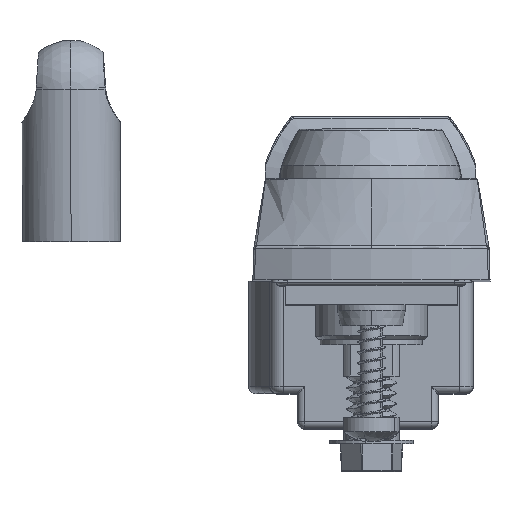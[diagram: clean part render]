
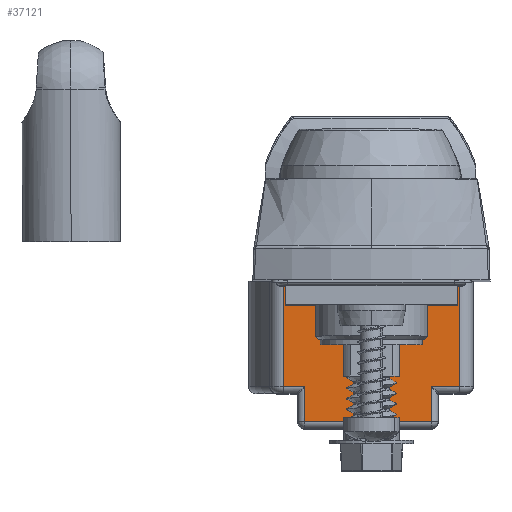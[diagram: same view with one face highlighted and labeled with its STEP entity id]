
A CAD part, top view. The second image highlights one B-rep face of the part: STEP entity #37121.
In plain terms, the highlighted planar face has unit normal (0, 0, 1) as drawn and (-1, 0, 0) by its records, which use the part's own axes.
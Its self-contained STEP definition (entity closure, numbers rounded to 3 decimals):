
#26204 = CARTESIAN_POINT ( 'NONE',  ( -77.047, 24.46, 15. ) ) ;
#26282 = DIRECTION ( 'NONE',  ( 0., 0., -1. ) ) ;
#26283 = VECTOR ( 'NONE', #26282, 1000. ) ;
#26284 = CARTESIAN_POINT ( 'NONE',  ( -77.047, 20.46, 16. ) ) ;
#26287 = LINE ( 'NONE', #26284, #26283 ) ;
#26304 = DIRECTION ( 'NONE',  ( 0., 0., -1. ) ) ;
#26305 = CARTESIAN_POINT ( 'NONE',  ( -77.047, 24.46, 16. ) ) ;
#26306 = LINE ( 'NONE', #26305, #26352 ) ;
#26329 = CARTESIAN_POINT ( 'NONE',  ( -77.047, 20.46, 15. ) ) ;
#26345 = CARTESIAN_POINT ( 'NONE',  ( -77.047, 20.46, 20. ) ) ;
#26352 = VECTOR ( 'NONE', #26304, 1000. ) ;
#26358 = AXIS2_PLACEMENT_3D ( 'NONE', #26386, #26377, #26376 ) ;
#26363 = LINE ( 'NONE', #26417, #26407 ) ;
#26374 = DIRECTION ( 'NONE',  ( 0., 1., 0. ) ) ;
#26376 = DIRECTION ( 'NONE',  ( 0., 0., -1. ) ) ;
#26377 = DIRECTION ( 'NONE',  ( 1., 0., 0. ) ) ;
#26378 = VECTOR ( 'NONE', #26374, 1000. ) ;
#26379 = CARTESIAN_POINT ( 'NONE',  ( -77.047, -0.54, 15. ) ) ;
#26386 = CARTESIAN_POINT ( 'NONE',  ( -77.047, -0.54, 16. ) ) ;
#26387 = LINE ( 'NONE', #26379, #26378 ) ;
#26389 = FACE_OUTER_BOUND ( 'NONE', #37138, .T. ) ;
#26391 = PLANE ( 'NONE',  #26358 ) ;
#26406 = DIRECTION ( 'NONE',  ( 0., 0., 1. ) ) ;
#26407 = VECTOR ( 'NONE', #26406, 1000. ) ;
#26414 = CARTESIAN_POINT ( 'NONE',  ( -77.047, -0.54, 15. ) ) ;
#26415 = CARTESIAN_POINT ( 'NONE',  ( -77.047, 2.46, 15. ) ) ;
#26417 = CARTESIAN_POINT ( 'NONE',  ( -77.047, 2.46, 16. ) ) ;
#26422 = DIRECTION ( 'NONE',  ( 0., 1., 0. ) ) ;
#26423 = VECTOR ( 'NONE', #26422, 1000. ) ;
#26433 = CARTESIAN_POINT ( 'NONE',  ( -77.047, -0.54, 16. ) ) ;
#26435 = CARTESIAN_POINT ( 'NONE',  ( -77.047, -0.54, 15. ) ) ;
#26436 = LINE ( 'NONE', #26435, #26423 ) ;
#26469 = DIRECTION ( 'NONE',  ( 0., 0., -1. ) ) ;
#26470 = VECTOR ( 'NONE', #26469, 1000. ) ;
#26471 = CARTESIAN_POINT ( 'NONE',  ( -77.047, 2.46, 20. ) ) ;
#26477 = LINE ( 'NONE', #26433, #26470 ) ;
#26500 = DIRECTION ( 'NONE',  ( 0., 1., 0. ) ) ;
#26501 = VECTOR ( 'NONE', #26500, 1000. ) ;
#26502 = CARTESIAN_POINT ( 'NONE',  ( -77.047, -0.54, 20. ) ) ;
#26503 = LINE ( 'NONE', #26502, #26501 ) ;
#32909 = CARTESIAN_POINT ( 'NONE',  ( -77.047, -0.54, 0. ) ) ;
#32919 = DIRECTION ( 'NONE',  ( 0., -1., 0. ) ) ;
#32920 = VECTOR ( 'NONE', #32919, 1000. ) ;
#32921 = CARTESIAN_POINT ( 'NONE',  ( -77.047, -0.54, 0. ) ) ;
#32922 = LINE ( 'NONE', #32921, #32920 ) ;
#32965 = CARTESIAN_POINT ( 'NONE',  ( -77.047, 24.46, 0. ) ) ;
#37030 = VERTEX_POINT ( 'NONE', #26204 ) ;
#37035 = ORIENTED_EDGE ( 'NONE', *, *, #37139, .T. ) ;
#37052 = EDGE_CURVE ( 'NONE', #37118, #37119, #26287, .T. ) ;
#37086 = EDGE_CURVE ( 'NONE', #37030, #39478, #26306, .T. ) ;
#37089 = ORIENTED_EDGE ( 'NONE', *, *, #37216, .T. ) ;
#37106 = ORIENTED_EDGE ( 'NONE', *, *, #37052, .T. ) ;
#37118 = VERTEX_POINT ( 'NONE', #26345 ) ;
#37119 = VERTEX_POINT ( 'NONE', #26329 ) ;
#37121 = ADVANCED_FACE ( 'NONE', ( #26389 ), #26391, .F. ) ;
#37123 = EDGE_CURVE ( 'NONE', #37119, #37030, #26387, .T. ) ;
#37129 = ORIENTED_EDGE ( 'NONE', *, *, #37086, .T. ) ;
#37134 = ORIENTED_EDGE ( 'NONE', *, *, #37187, .F. ) ;
#37136 = VERTEX_POINT ( 'NONE', #26415 ) ;
#37137 = VERTEX_POINT ( 'NONE', #26414 ) ;
#37138 = EDGE_LOOP ( 'NONE', ( #37106, #37191, #37129, #37201, #37134, #37158, #37035, #37089 ) ) ;
#37139 = EDGE_CURVE ( 'NONE', #37136, #37198, #26363, .T. ) ;
#37158 = ORIENTED_EDGE ( 'NONE', *, *, #37184, .T. ) ;
#37184 = EDGE_CURVE ( 'NONE', #37137, #37136, #26436, .T. ) ;
#37187 = EDGE_CURVE ( 'NONE', #37137, #39455, #26477, .T. ) ;
#37191 = ORIENTED_EDGE ( 'NONE', *, *, #37123, .T. ) ;
#37198 = VERTEX_POINT ( 'NONE', #26471 ) ;
#37201 = ORIENTED_EDGE ( 'NONE', *, *, #39434, .T. ) ;
#37216 = EDGE_CURVE ( 'NONE', #37198, #37118, #26503, .T. ) ;
#39434 = EDGE_CURVE ( 'NONE', #39478, #39455, #32922, .T. ) ;
#39455 = VERTEX_POINT ( 'NONE', #32909 ) ;
#39478 = VERTEX_POINT ( 'NONE', #32965 ) ;
